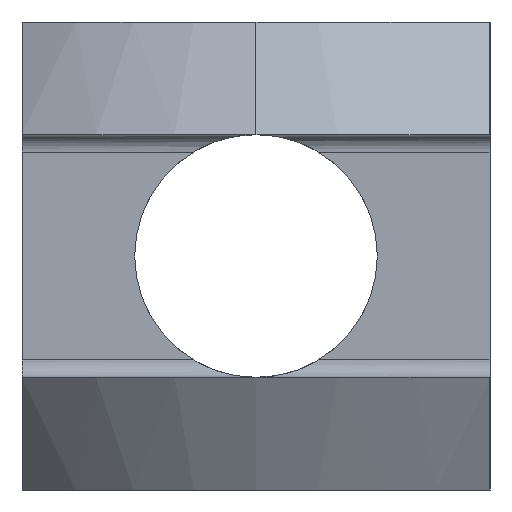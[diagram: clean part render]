
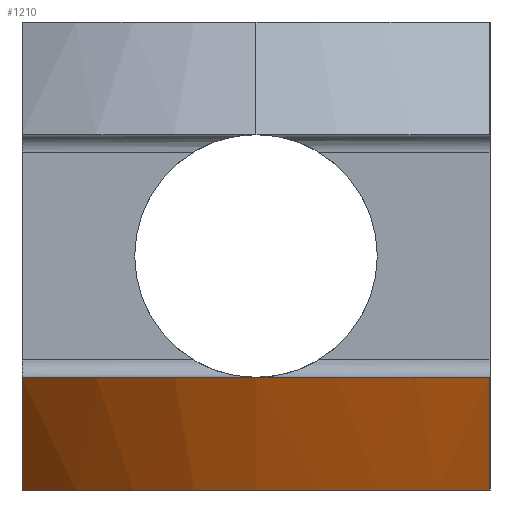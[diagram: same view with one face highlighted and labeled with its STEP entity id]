
A CAD part, left-side view. The second image highlights one B-rep face of the part: STEP entity #1210.
In plain terms, the highlighted conical face has half-angle 30 degrees and reference radius 27 mm.
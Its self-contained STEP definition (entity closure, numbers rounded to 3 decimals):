
#97 = EDGE_CURVE ( 'NONE', #98, #99, #443, .T. ) ;
#98 = VERTEX_POINT ( 'NONE', #438 ) ;
#99 = VERTEX_POINT ( 'NONE', #437 ) ;
#237 = EDGE_CURVE ( 'NONE', #519, #98, #746, .T. ) ;
#437 = CARTESIAN_POINT ( 'NONE',  ( -97.383, -13.5, -7. ) ) ;
#438 = CARTESIAN_POINT ( 'NONE',  ( -97.383, 13.5, -7. ) ) ;
#439 = DIRECTION ( 'NONE',  ( 1., 0., 0. ) ) ;
#440 = DIRECTION ( 'NONE',  ( 0., 0., 1. ) ) ;
#441 = CARTESIAN_POINT ( 'NONE',  ( -74., 0., -7. ) ) ;
#442 = AXIS2_PLACEMENT_3D ( 'NONE', #441, #440, #439 ) ;
#443 = CIRCLE ( 'NONE', #442, 27. ) ;
#512 = EDGE_CURVE ( 'NONE', #519, #529, #788, .T. ) ;
#519 = VERTEX_POINT ( 'NONE', #825 ) ;
#528 = EDGE_CURVE ( 'NONE', #99, #529, #813, .T. ) ;
#529 = VERTEX_POINT ( 'NONE', #812 ) ;
#741 = CARTESIAN_POINT ( 'NONE',  ( -97.383, 13.5, -7. ) ) ;
#742 = CARTESIAN_POINT ( 'NONE',  ( -95.925, 13.5, -9.186 ) ) ;
#743 = CARTESIAN_POINT ( 'NONE',  ( -94.445, 13.5, -11.358 ) ) ;
#744 = CARTESIAN_POINT ( 'NONE',  ( -92.926, 13.5, -13.5 ) ) ;
#746 = B_SPLINE_CURVE_WITH_KNOTS ( 'NONE', 3,
 ( #744, #743, #742, #741 ),
 .UNSPECIFIED., .F., .F.,
 ( 4, 4 ),
 ( 0.012, 0.02 ),
 .UNSPECIFIED. ) ;
#784 = DIRECTION ( 'NONE',  ( 1., 0., 0. ) ) ;
#785 = DIRECTION ( 'NONE',  ( 0., 0., 1. ) ) ;
#786 = CARTESIAN_POINT ( 'NONE',  ( -74., 0., -13.5 ) ) ;
#787 = AXIS2_PLACEMENT_3D ( 'NONE', #786, #785, #784 ) ;
#788 = CIRCLE ( 'NONE', #787, 23.247 ) ;
#811 = CARTESIAN_POINT ( 'NONE',  ( -97.383, -13.5, -7. ) ) ;
#812 = CARTESIAN_POINT ( 'NONE',  ( -92.926, -13.5, -13.5 ) ) ;
#813 = B_SPLINE_CURVE_WITH_KNOTS ( 'NONE', 3,
 ( #811, #873, #872, #871 ),
 .UNSPECIFIED., .F., .F.,
 ( 4, 4 ),
 ( 0.032, 0.04 ),
 .UNSPECIFIED. ) ;
#825 = CARTESIAN_POINT ( 'NONE',  ( -92.926, 13.5, -13.5 ) ) ;
#871 = CARTESIAN_POINT ( 'NONE',  ( -92.926, -13.5, -13.5 ) ) ;
#872 = CARTESIAN_POINT ( 'NONE',  ( -94.445, -13.5, -11.358 ) ) ;
#873 = CARTESIAN_POINT ( 'NONE',  ( -95.925, -13.5, -9.186 ) ) ;
#892 = DIRECTION ( 'NONE',  ( 1., 0., 0. ) ) ;
#893 = DIRECTION ( 'NONE',  ( 0., 0., 1. ) ) ;
#894 = AXIS2_PLACEMENT_3D ( 'NONE', #895, #893, #892 ) ;
#895 = CARTESIAN_POINT ( 'NONE',  ( -74., 0., -7. ) ) ;
#896 = CONICAL_SURFACE ( 'NONE', #894, 27., 0.524 ) ;
#900 = FACE_OUTER_BOUND ( 'NONE', #1193, .T. ) ;
#1190 = ORIENTED_EDGE ( 'NONE', *, *, #237, .F. ) ;
#1191 = ORIENTED_EDGE ( 'NONE', *, *, #528, .F. ) ;
#1192 = ORIENTED_EDGE ( 'NONE', *, *, #512, .T. ) ;
#1193 = EDGE_LOOP ( 'NONE', ( #1196, #1190, #1192, #1191 ) ) ;
#1196 = ORIENTED_EDGE ( 'NONE', *, *, #97, .F. ) ;
#1210 = ADVANCED_FACE ( 'NONE', ( #900 ), #896, .T. ) ;
